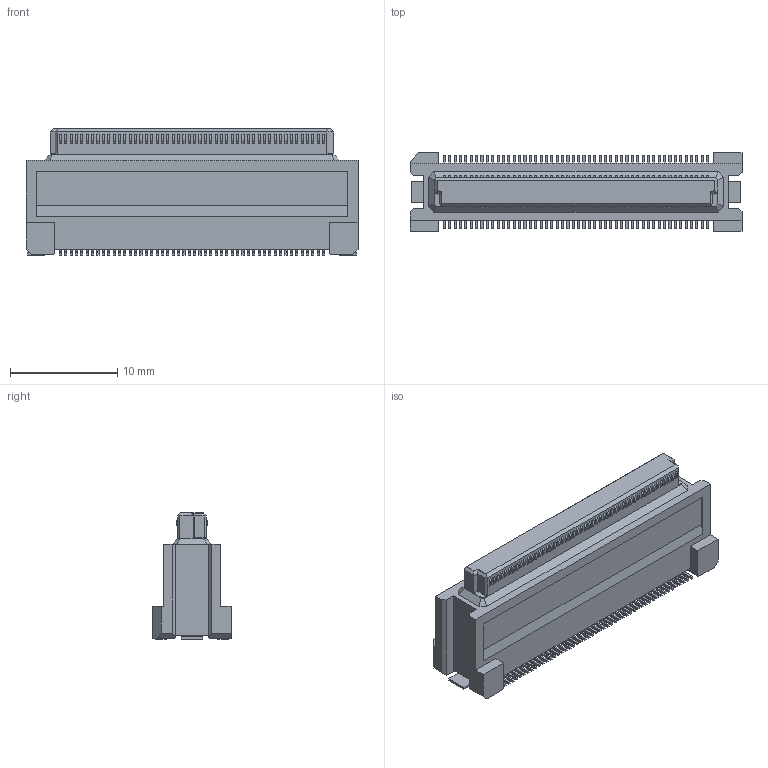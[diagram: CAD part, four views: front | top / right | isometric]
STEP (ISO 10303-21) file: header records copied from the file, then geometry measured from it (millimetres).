
FILE_DESCRIPTION(('Creo Elements/Direct Modeling STEP Export'),'2;1');
FILE_NAME('DY10-100FS-3.stp','2017-11-28T 9:36:51',(''),(''),'Creo Elements/Direct Modeling STEP processor for AP214 (Solid Model)','Creo Elements/Direct Modeling 19.0F 14-Feb-2017 (C) Parametric Technology GmbH','');
FILE_SCHEMA(('AUTOMOTIVE_DESIGN { 1 0 10303 214 1 1 1 1 }'));
Length unit declared in the file: millimetre
Products named in the file (2): DY10-100FS-3
Assembly tree (1 placements, depth 2):
  DY10-100FS-3
    DY10-100FS-3
Bounding box: 30.9 x 7.3 x 11.73 mm (x, y, z)
Volume: 1420.8 mm3; surface area: 1356.9 mm2
Topology: 1 solids, 1 shells, 1450 faces, 3993 edges, 2650 vertices
Faces by surface type: plane 1036, cylinder 406, bspline 8
Entity records: 46183 total; most frequent: CARTESIAN_POINT 9206, ORIENTED_EDGE 7986, DIRECTION 7275, EDGE_CURVE 3993, VECTOR 3157, LINE 3157, VERTEX_POINT 2650, AXIS2_PLACEMENT_3D 2059
